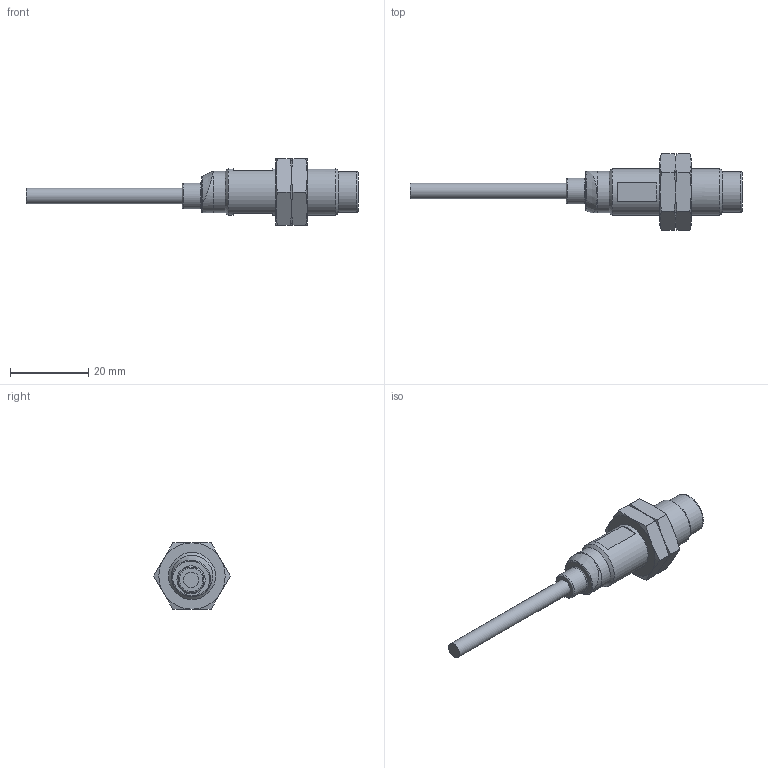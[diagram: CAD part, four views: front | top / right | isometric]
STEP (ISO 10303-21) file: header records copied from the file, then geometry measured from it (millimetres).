
FILE_DESCRIPTION( ( 'STEP AP203' ), '1' );
FILE_NAME( 'p:/temp/worker_108/2864_680/app_55_02015052110531133962502192d056f_00_00_00_000/STEP/IFS704_2_03.stp', ' ', ( ' ' ), ( ' ' ), 'PSStep 15.0.47', 'PARTsolutions', ' ' );
FILE_SCHEMA( ( 'CONFIG_CONTROL_DESIGN' ) );
Length unit declared in the file: millimetre
Products named in the file (3): IFS704; _IFS704_p1; _IFS700_p2
Assembly tree (3 placements, depth 2):
  IFS704
    _IFS704_p1
    _IFS700_p2  x2
Bounding box: 85 x 19.63 x 17 mm (x, y, z)
Volume: 6056.8 mm3; surface area: 3537.5 mm2
Topology: 3 solids, 3 shells, 72 faces, 150 edges, 89 vertices
Faces by surface type: cone 31, plane 28, cylinder 8, torus 5
Full cylindrical faces by diameter (mm): 4 x1, 6.6 x1, 10.4 x1, 10.55 x1, 10.6 x1, 10.917 x2, 12 x1
Entity records: 1378 total; most frequent: CARTESIAN_POINT 337, DIRECTION 198, ORIENTED_EDGE 164, AXIS2_PLACEMENT_3D 92, EDGE_CURVE 82, EDGE_LOOP 71, FACE_OUTER_BOUND 59, VERTEX_POINT 57
